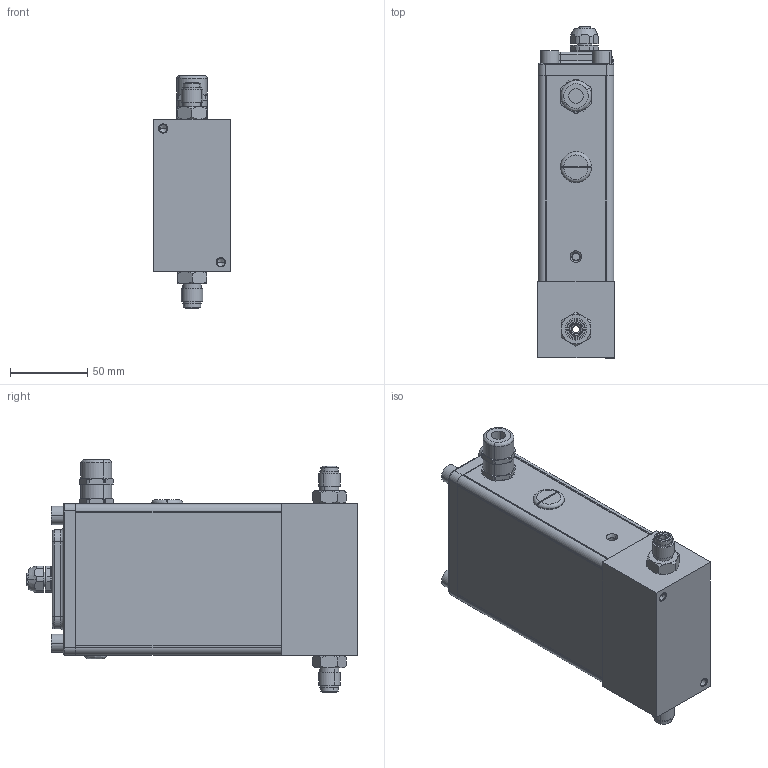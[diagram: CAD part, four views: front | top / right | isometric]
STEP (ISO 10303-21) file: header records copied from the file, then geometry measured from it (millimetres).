
FILE_DESCRIPTION (( 'STEP AP203' ), '1' );
FILE_NAME ('SLAMF60-3-1E-0-A-REVB.STEP', '2024-04-18T15:31:55', ( '' ), ( '' ), 'SwSTEP 2.0', 'SolidWorks 2023', '' );
FILE_SCHEMA (( 'CONFIG_CONTROL_DESIGN' ));
Length unit declared in the file: inch
Products named in the file (1): SLAMF60-3-1E-0-A-REVB
Bounding box: 49.5 x 214.99 x 150.64 mm (x, y, z)
Volume: 457574.8 mm3; surface area: 154795.7 mm2
Topology: 18 solids, 18 shells, 756 faces, 1781 edges, 1102 vertices
Faces by surface type: cylinder 284, plane 246, cone 160, bspline 50, torus 16
Entity records: 23668 total; most frequent: CARTESIAN_POINT 6102, DIRECTION 3813, ORIENTED_EDGE 3534, EDGE_CURVE 1767, AXIS2_PLACEMENT_3D 1507, VERTEX_POINT 1102, EDGE_LOOP 859, CIRCLE 800
